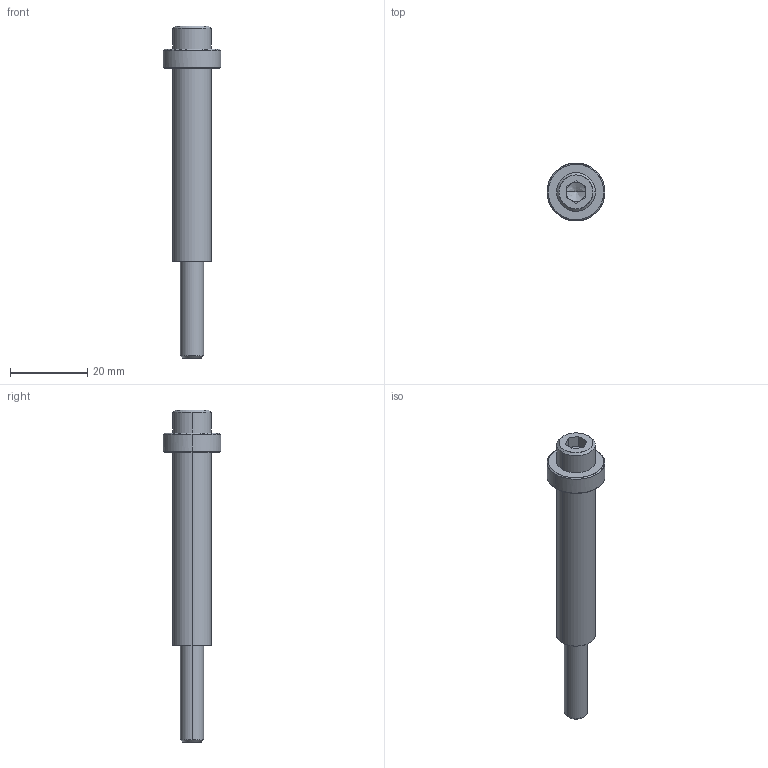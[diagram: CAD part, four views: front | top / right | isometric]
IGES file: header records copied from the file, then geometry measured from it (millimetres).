
Global section: file name: E:\UnigraphicsGraphicData\MISUMI_PRESS-PARTS\IGES\3d_sbth10-50-80_05159_r00.igs; native system: NX V5.0; preprocessor: UGS NX IGES V5.0; author: MISUMI; date: 20110105.162500; units: millimetre
Bounding box: 15 x 15 x 86 mm (x, y, z)
Surface area: 5095.5 mm2 (no closed solid volume)
Topology: 0 solids, 0 shells, 45 faces, 252 edges, 250 vertices
Faces by surface type: bspline 45
